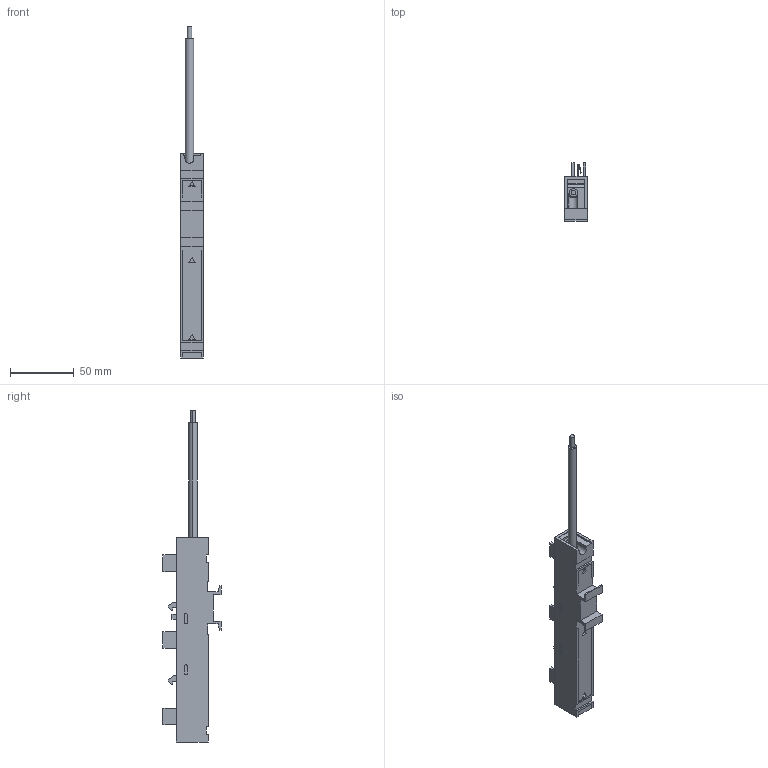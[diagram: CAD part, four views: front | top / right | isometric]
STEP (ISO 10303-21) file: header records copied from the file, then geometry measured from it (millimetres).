
FILE_DESCRIPTION(('CATIA V5 STEP Exchange','CAx-IF Rec.Pracs.--- Model Styling and Organization---1.2---2011-12-15'),'2;1');
FILE_NAME('V:\3D_Symbole\32307_Brandlabel\32307.stp','2019-04-24T09:00:51+00:00',('none'),('none'),'Version 5-6 Release 2012','CATIA V5 STEP AP214','none');
FILE_SCHEMA(('AUTOMOTIVE_DESIGN { 1 0 10303 214 1 1 1 1 }'));
Length unit declared in the file: millimetre
Products named in the file (6): 32307; housing_4q_160_B; fixing; locking element; Steckkontakt; Leitung 10mm²
Assembly tree (5 placements, depth 2):
  32307
    housing_4q_160_B
    fixing
    locking element
    Steckkontakt
    Leitung 10mm²
Bounding box: 18 x 45.5 x 260 mm (x, y, z)
Volume: 74885.8 mm3; surface area: 33941.1 mm2
Topology: 6 solids, 6 shells, 234 faces, 632 edges, 421 vertices
Faces by surface type: plane 217, cylinder 17
Entity records: 7088 total; most frequent: ORIENTED_EDGE 1264, CARTESIAN_POINT 1255, DIRECTION 977, EDGE_CURVE 632, VECTOR 599, LINE 599, VERTEX_POINT 421, EDGE_LOOP 265
